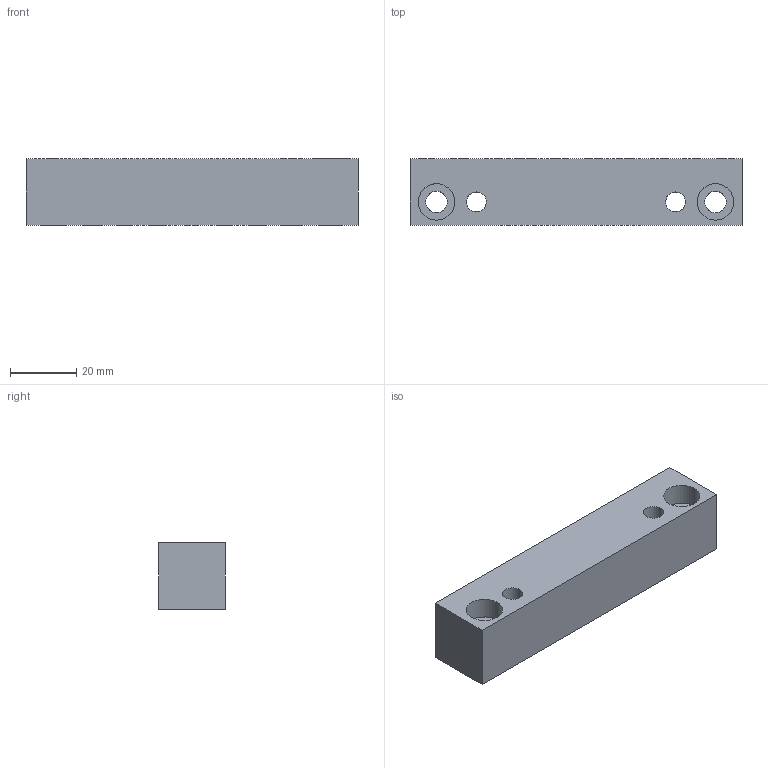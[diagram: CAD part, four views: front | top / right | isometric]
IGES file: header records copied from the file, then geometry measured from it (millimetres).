
Start section: START RECORD GO HERE.
Global section: file name: G40520100.igs; native system: DASSAULT SYSTEMES CATIA V5 R20 - www.3ds.com; preprocessor: CATIA Version 5 Release 20 ; author: r.borello; organization: CFTORINO; date: 20190624.150050; units: millimetre
Bounding box: 100 x 20 x 20 mm (x, y, z)
Surface area: 13597.4 mm2 (no closed solid volume)
Topology: 0 solids, 0 shells, 386 faces, 1656 edges, 1480 vertices
Faces by surface type: revolution 340, plane 46
